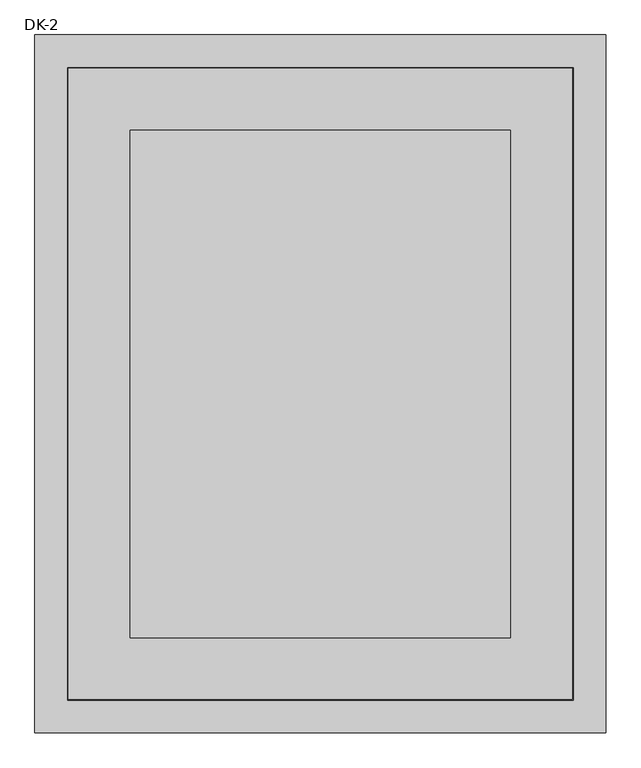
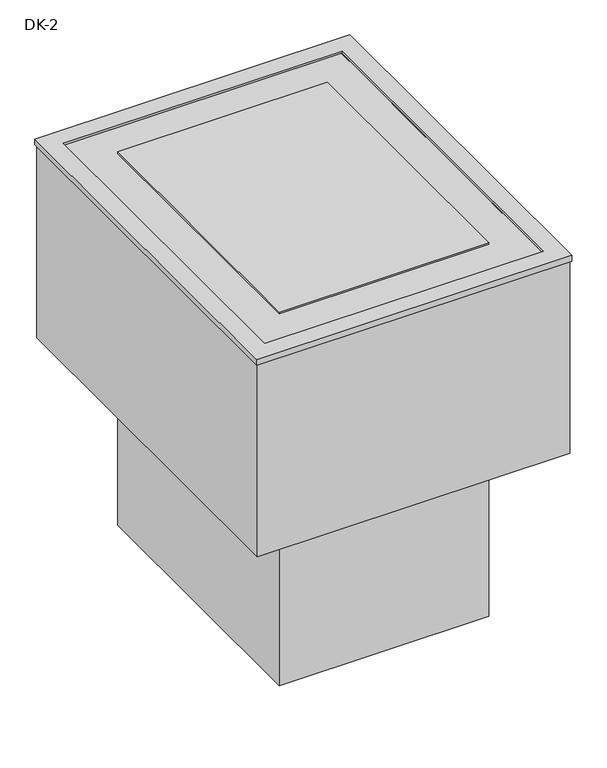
"""IFC4 building model written with IfcOpenShell, lengths in millimetres: air terminal geometry, NLRS_57_AIR_FB_Dakkap DK-2_SMA : DK-2."""

from ifc_helpers import new_model, si_unit, origin, place, context, project, spatial, faceted_brep, source, transform, mapped, element, save


def dk_2_3b327718(model_context):
    return source(origin(), model_context, "Body", "Brep", [
        faceted_brep([(355.0, 455.0, 152.2), (355.0, 455.0, 150.0), (355.0, -455.0, 150.0), (355.0, -455.0, 152.2), (444.0, 544.0, 748.0), (444.0, 544.0, 152.2), (444.0, -544.0, 152.2), (444.0, -544.0, 748.0), (401.0, 501.0, 737.5), (401.0, 501.0, 748.0), (401.0, -501.0, 748.0), (401.0, -501.0, 737.5), (386.5, 486.5, 738.7687085), (386.5, 486.5, 737.5), (386.5, -486.5, 737.5), (386.5, -486.5, 738.7687085), (396.5, 496.5, 743.9627225), (396.5, 496.5, 738.7687085), (396.5, -496.5, 738.7687085), (396.5, -496.5, 743.9627225), (397.5, 497.5, 738.7687085), (397.5, 497.5, 745.0), (397.5, -497.5, 745.0), (397.5, -497.5, 738.7687085), (399.0, 499.0, 750.0), (399.0, 499.0, 738.7687085), (399.0, -499.0, 738.7687085), (399.0, -499.0, 750.0), (450.4142136, 550.4142136, 732.5), (450.4142136, 550.4142136, 750.0), (450.4142136, -550.4142136, 750.0), (450.4142136, -550.4142136, 732.5), (449.0, 549.0, 748.0), (449.0, 549.0, 732.5), (449.0, -549.0, 732.5), (449.0, -549.0, 748.0), (447.0, 547.0, 150.0), (447.0, 547.0, 748.0), (447.0, -547.0, 748.0), (447.0, -547.0, 150.0), (-355.0, -455.0, 150.0), (-355.0, -455.0, 152.2), (-444.0, -544.0, 152.2), (-444.0, -544.0, 748.0), (-401.0, -501.0, 748.0), (-401.0, -501.0, 737.5), (-386.5, -486.5, 737.5), (-386.5, -486.5, 738.7687085), (-396.5, -496.5, 738.7687085), (-396.5, -496.5, 743.9627225), (-397.5, -497.5, 745.0), (-397.5, -497.5, 738.7687085), (-399.0, -499.0, 738.7687085), (-399.0, -499.0, 750.0), (-450.4142136, -550.4142136, 750.0), (-450.4142136, -550.4142136, 732.5), (-449.0, -549.0, 732.5), (-449.0, -549.0, 748.0), (-447.0, -547.0, 748.0), (-447.0, -547.0, 150.0), (-355.0, 455.0, 150.0), (-355.0, 455.0, 152.2), (-444.0, 544.0, 152.2), (-444.0, 544.0, 748.0), (-401.0, 501.0, 748.0), (-401.0, 501.0, 737.5), (-386.5, 486.5, 737.5), (-386.5, 486.5, 738.7687085), (-396.5, 496.5, 738.7687085), (-396.5, 496.5, 743.9627225), (-397.5, 497.5, 745.0), (-397.5, 497.5, 738.7687085), (-399.0, 499.0, 738.7687085), (-399.0, 499.0, 750.0), (-450.4142136, 550.4142136, 750.0), (-450.4142136, 550.4142136, 732.5), (-449.0, 549.0, 732.5), (-449.0, 549.0, 748.0), (-447.0, 547.0, 748.0), (-447.0, 547.0, 150.0), (300.0, 400.0, 743.9627225), (-300.0, 400.0, 743.9627225), (-300.0, -400.0, 743.9627225), (300.0, -400.0, 743.9627225), (-300.0, 400.0, 745.0), (300.0, 400.0, 745.0), (300.0, -400.0, 745.0), (-300.0, -400.0, 745.0), (300.0, 400.0, 750.0), (-300.0, 400.0, 750.0), (-300.0, -400.0, 750.0), (300.0, -400.0, 750.0), (300.0, 400.0, 743.2029442), (300.0, -400.0, 743.2029442), (-300.0, -400.0, 743.2029442), (-300.0, 400.0, 743.2029442)], [[[0, 1, 2, 3]], [[4, 5, 6, 7]], [[8, 9, 10, 11]], [[12, 13, 14, 15]], [[16, 17, 18, 19]], [[20, 21, 22, 23]], [[24, 25, 26, 27]], [[28, 29, 30, 31]], [[32, 33, 34, 35]], [[36, 37, 38, 39]], [[3, 2, 40, 41]], [[7, 6, 42, 43]], [[11, 10, 44, 45]], [[15, 14, 46, 47]], [[19, 18, 48, 49]], [[23, 22, 50, 51]], [[27, 26, 52, 53]], [[31, 30, 54, 55]], [[35, 34, 56, 57]], [[39, 38, 58, 59]], [[41, 40, 60, 61]], [[43, 42, 62, 63]], [[45, 44, 64, 65]], [[47, 46, 66, 67]], [[49, 48, 68, 69]], [[51, 50, 70, 71]], [[53, 52, 72, 73]], [[55, 54, 74, 75]], [[57, 56, 76, 77]], [[59, 58, 78, 79]], [[36, 39, 59, 79], [2, 1, 60, 40]], [[1, 0, 61, 60]], [[6, 5, 62, 42], [0, 3, 41, 61]], [[5, 4, 63, 62]], [[4, 7, 43, 63], [10, 9, 64, 44]], [[9, 8, 65, 64]], [[8, 11, 45, 65], [14, 13, 66, 46]], [[13, 12, 67, 66]], [[18, 17, 68, 48], [12, 15, 47, 67]], [[17, 16, 69, 68]], [[16, 19, 49, 69], [80, 81, 82, 83]], [[22, 21, 70, 50], [84, 85, 86, 87]], [[21, 20, 71, 70]], [[26, 25, 72, 52], [20, 23, 51, 71]], [[25, 24, 73, 72]], [[30, 29, 74, 54], [24, 27, 53, 73]], [[29, 28, 75, 74]], [[28, 31, 55, 75], [34, 33, 76, 56]], [[33, 32, 77, 76]], [[32, 35, 57, 77], [38, 37, 78, 58]], [[37, 36, 79, 78]], [[88, 89, 90, 91]], [[92, 93, 94, 95]], [[89, 88, 85, 84]], [[92, 95, 81, 80]], [[90, 89, 84, 87]], [[95, 94, 82, 81]], [[91, 90, 87, 86]], [[94, 93, 83, 82]], [[88, 91, 86, 85]], [[93, 92, 80, 83]]]),
        faceted_brep([(300.0, 400.0, 200.0), (-300.0, 400.0, 200.0), (-300.0, -400.0, 200.0), (300.0, -400.0, 200.0), (290.0, 390.0, 200.0), (290.0, -390.0, 200.0), (-290.0, -390.0, 200.0), (-290.0, 390.0, 200.0), (300.0, 400.0, -380.0), (300.0, -400.0, -380.0), (-300.0, -400.0, -380.0), (-300.0, 400.0, -380.0), (290.0, 390.0, -380.0), (-290.0, 390.0, -380.0), (-290.0, -390.0, -380.0), (290.0, -390.0, -380.0)], [[[0, 1, 2, 3], [4, 5, 6, 7]], [[8, 9, 10, 11], [12, 13, 14, 15]], [[1, 0, 8, 11]], [[2, 1, 11, 10]], [[3, 2, 10, 9]], [[0, 3, 9, 8]], [[5, 4, 12, 15]], [[6, 5, 15, 14]], [[7, 6, 14, 13]], [[4, 7, 13, 12]]]),
    ])


if __name__ == "__main__":
    model = new_model("IFC4")
    model_context = context("Model", 3, world=origin())
    ifc_project = project(units=[si_unit("LENGTHUNIT", "METRE", prefix="MILLI")], contexts=[model_context])
    site = spatial("IfcSite", under=ifc_project)
    building = spatial("IfcBuilding", under=site)
    placement = place(None, origin())
    dk_2_shape = dk_2_3b327718(model_context)
    element("IfcAirTerminal", 1, ObjectType="NLRS_57_AIR_FB_Dakkap DK-2_SMA : DK-2", at=placement, inside=building, context=model_context, shape_type="MappedRepresentation", body=[
        mapped(dk_2_shape, transform((0.0, 0.0, 0.0), x_axis=(1.0, 0.0, 0.0), y_axis=(0.0, 1.0, 0.0), z_axis=(0.0, 0.0, 1.0))),
    ])
    save(model, "model.ifc")
